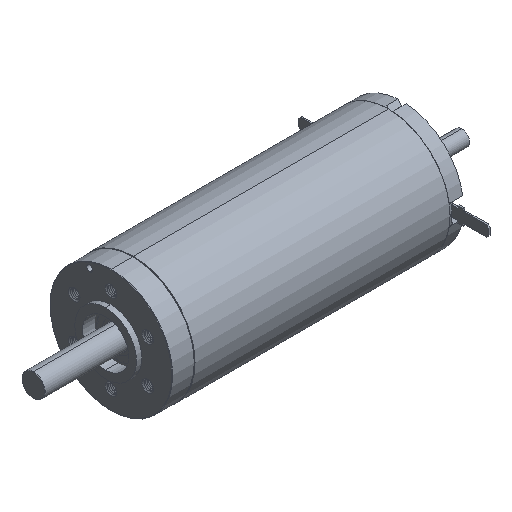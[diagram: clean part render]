
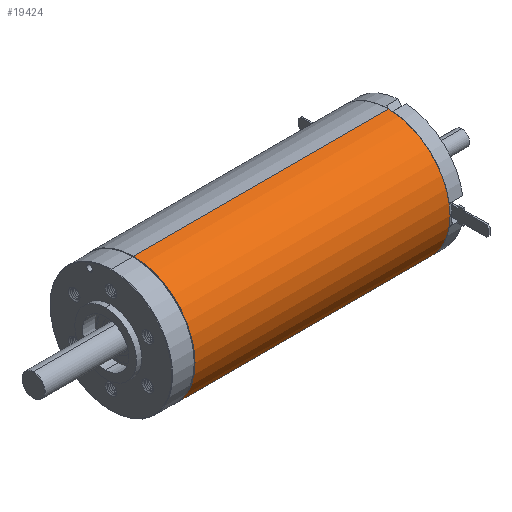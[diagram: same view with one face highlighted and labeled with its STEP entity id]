
A CAD part, isometric view. The second image highlights one B-rep face of the part: STEP entity #19424.
In plain terms, the highlighted cylindrical face has radius 16 mm (diameter 32 mm), a partial arc.
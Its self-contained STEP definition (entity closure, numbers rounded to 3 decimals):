
#430 = LINE ( 'NONE', #5980, #47599 ) ;
#1469 = VERTEX_POINT ( 'NONE', #34846 ) ;
#1569 = VECTOR ( 'NONE', #19485, 1000. ) ;
#5980 = CARTESIAN_POINT ( 'NONE',  ( 38.9, 0., -16. ) ) ;
#7646 = CIRCLE ( 'NONE', #16412, 16. ) ;
#9311 = CARTESIAN_POINT ( 'NONE',  ( 38.9, 0., 0. ) ) ;
#13266 = VERTEX_POINT ( 'NONE', #22369 ) ;
#14104 = CARTESIAN_POINT ( 'NONE',  ( 72., 0., 0. ) ) ;
#14900 = CARTESIAN_POINT ( 'NONE',  ( 38.9, 0., 16. ) ) ;
#15974 = EDGE_CURVE ( 'NONE', #41412, #43002, #48723, .T. ) ;
#16207 = CYLINDRICAL_SURFACE ( 'NONE', #59258, 16. ) ;
#16412 = AXIS2_PLACEMENT_3D ( 'NONE', #14104, #46091, #18665 ) ;
#18665 = DIRECTION ( 'NONE',  ( 0., 0., 1. ) ) ;
#19424 = ADVANCED_FACE ( 'NONE', ( #46277 ), #16207, .T. ) ;
#19485 = DIRECTION ( 'NONE',  ( -1., 0., 0. ) ) ;
#19705 = DIRECTION ( 'NONE',  ( -1., 0., 0. ) ) ;
#22369 = CARTESIAN_POINT ( 'NONE',  ( 72., 0., -16. ) ) ;
#24240 = EDGE_LOOP ( 'NONE', ( #24259, #30346, #49522, #58780 ) ) ;
#24259 = ORIENTED_EDGE ( 'NONE', *, *, #41862, .F. ) ;
#25602 = DIRECTION ( 'NONE',  ( 1., 0., 0. ) ) ;
#27095 = DIRECTION ( 'NONE',  ( -1., 0., 0. ) ) ;
#30346 = ORIENTED_EDGE ( 'NONE', *, *, #37603, .T. ) ;
#32191 = CARTESIAN_POINT ( 'NONE',  ( 72., 0., 16. ) ) ;
#34194 = CARTESIAN_POINT ( 'NONE',  ( 5.8, 0., 16. ) ) ;
#34846 = CARTESIAN_POINT ( 'NONE',  ( 5.8, 0., -16. ) ) ;
#37603 = EDGE_CURVE ( 'NONE', #13266, #41412, #7646, .T. ) ;
#41322 = DIRECTION ( 'NONE',  ( 0., 0., 1. ) ) ;
#41412 = VERTEX_POINT ( 'NONE', #32191 ) ;
#41862 = EDGE_CURVE ( 'NONE', #13266, #1469, #430, .T. ) ;
#43002 = VERTEX_POINT ( 'NONE', #34194 ) ;
#46091 = DIRECTION ( 'NONE',  ( -1., 0., 0. ) ) ;
#46277 = FACE_OUTER_BOUND ( 'NONE', #24240, .T. ) ;
#47554 = AXIS2_PLACEMENT_3D ( 'NONE', #53017, #25602, #57668 ) ;
#47599 = VECTOR ( 'NONE', #19705, 1000. ) ;
#48723 = LINE ( 'NONE', #14900, #1569 ) ;
#49522 = ORIENTED_EDGE ( 'NONE', *, *, #15974, .T. ) ;
#52817 = EDGE_CURVE ( 'NONE', #43002, #1469, #58075, .T. ) ;
#53017 = CARTESIAN_POINT ( 'NONE',  ( 5.8, 0., 0. ) ) ;
#57668 = DIRECTION ( 'NONE',  ( 0., 0., 1. ) ) ;
#58075 = CIRCLE ( 'NONE', #47554, 16. ) ;
#58780 = ORIENTED_EDGE ( 'NONE', *, *, #52817, .T. ) ;
#59258 = AXIS2_PLACEMENT_3D ( 'NONE', #9311, #27095, #41322 ) ;
